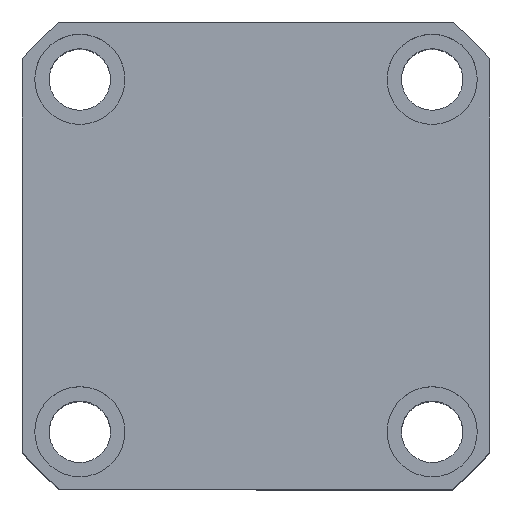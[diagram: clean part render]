
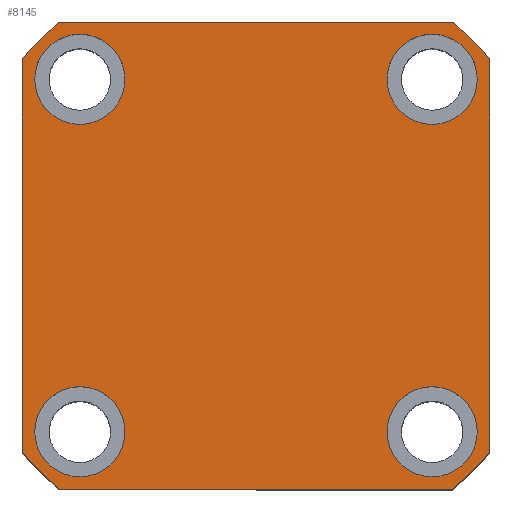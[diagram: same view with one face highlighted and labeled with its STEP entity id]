
A CAD part, top view. The second image highlights one B-rep face of the part: STEP entity #8145.
In plain terms, the highlighted planar face has unit normal (0, 0, 1) as drawn and (0, 0, -1) by its records, which use the part's own axes.
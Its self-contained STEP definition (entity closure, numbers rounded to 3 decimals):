
#137 = EDGE_CURVE ( 'NONE', #4290, #3508, #11604, .T. ) ;
#358 = ORIENTED_EDGE ( 'NONE', *, *, #2999, .F. ) ;
#804 = CARTESIAN_POINT ( 'NONE',  ( -43., 43., 0. ) ) ;
#957 = LINE ( 'NONE', #5807, #3370 ) ;
#1040 = VERTEX_POINT ( 'NONE', #4546 ) ;
#1127 = ORIENTED_EDGE ( 'NONE', *, *, #10592, .F. ) ;
#1174 = CARTESIAN_POINT ( 'NONE',  ( 32., -43., 0. ) ) ;
#1269 = VERTEX_POINT ( 'NONE', #4245 ) ;
#1313 = EDGE_CURVE ( 'NONE', #10819, #14537, #3320, .T. ) ;
#1433 = DIRECTION ( 'NONE',  ( -1., 0., 0. ) ) ;
#1468 = DIRECTION ( 'NONE',  ( 0., 0., 1. ) ) ;
#1489 = CIRCLE ( 'NONE', #12491, 74.5 ) ;
#1985 = DIRECTION ( 'NONE',  ( -1., 0., 0. ) ) ;
#1999 = FACE_BOUND ( 'NONE', #10458, .T. ) ;
#2124 = DIRECTION ( 'NONE',  ( 0., 0., -1. ) ) ;
#2259 = CARTESIAN_POINT ( 'NONE',  ( 32., 43., 0. ) ) ;
#2394 = ORIENTED_EDGE ( 'NONE', *, *, #137, .F. ) ;
#2412 = EDGE_CURVE ( 'NONE', #2952, #1040, #13383, .T. ) ;
#2517 = CARTESIAN_POINT ( 'NONE',  ( 57., 57., 0. ) ) ;
#2525 = CIRCLE ( 'NONE', #12317, 11. ) ;
#2550 = DIRECTION ( 'NONE',  ( 0., 0., -1. ) ) ;
#2587 = VERTEX_POINT ( 'NONE', #2259 ) ;
#2898 = DIRECTION ( 'NONE',  ( 0., 0., -1. ) ) ;
#2952 = VERTEX_POINT ( 'NONE', #11994 ) ;
#2999 = EDGE_CURVE ( 'NONE', #15033, #1269, #11214, .T. ) ;
#3010 = CARTESIAN_POINT ( 'NONE',  ( -47.971, 57., 0. ) ) ;
#3320 = CIRCLE ( 'NONE', #9680, 11. ) ;
#3335 = CARTESIAN_POINT ( 'NONE',  ( 54., -43., 0. ) ) ;
#3370 = VECTOR ( 'NONE', #8192, 1000. ) ;
#3508 = VERTEX_POINT ( 'NONE', #8766 ) ;
#3743 = CARTESIAN_POINT ( 'NONE',  ( 0., 0., 0. ) ) ;
#3827 = VERTEX_POINT ( 'NONE', #11361 ) ;
#3828 = CIRCLE ( 'NONE', #7115, 74.5 ) ;
#3911 = EDGE_CURVE ( 'NONE', #1269, #12173, #3921, .T. ) ;
#3921 = CIRCLE ( 'NONE', #6858, 74.5 ) ;
#4144 = CARTESIAN_POINT ( 'NONE',  ( -32., 43., 0. ) ) ;
#4187 = EDGE_LOOP ( 'NONE', ( #13635, #4657 ) ) ;
#4245 = CARTESIAN_POINT ( 'NONE',  ( -57., -47.971, 0. ) ) ;
#4283 = DIRECTION ( 'NONE',  ( 0., 0., 1. ) ) ;
#4290 = VERTEX_POINT ( 'NONE', #6580 ) ;
#4384 = CIRCLE ( 'NONE', #11736, 74.5 ) ;
#4512 = EDGE_CURVE ( 'NONE', #12173, #6293, #957, .T. ) ;
#4546 = CARTESIAN_POINT ( 'NONE',  ( -54., -43., 0. ) ) ;
#4548 = DIRECTION ( 'NONE',  ( 0., 0., -1. ) ) ;
#4657 = ORIENTED_EDGE ( 'NONE', *, *, #15214, .F. ) ;
#5028 = ORIENTED_EDGE ( 'NONE', *, *, #6767, .F. ) ;
#5146 = FACE_BOUND ( 'NONE', #4187, .T. ) ;
#5189 = ORIENTED_EDGE ( 'NONE', *, *, #11516, .F. ) ;
#5269 = CARTESIAN_POINT ( 'NONE',  ( 47.971, -57., 0. ) ) ;
#5358 = VECTOR ( 'NONE', #9121, 1000. ) ;
#5428 = DIRECTION ( 'NONE',  ( 0., 0., -1. ) ) ;
#5526 = FACE_BOUND ( 'NONE', #8259, .T. ) ;
#5717 = CARTESIAN_POINT ( 'NONE',  ( 0., 0., 0. ) ) ;
#5806 = CARTESIAN_POINT ( 'NONE',  ( 0., 0., 0. ) ) ;
#5807 = CARTESIAN_POINT ( 'NONE',  ( -57., -57., 0. ) ) ;
#5923 = ORIENTED_EDGE ( 'NONE', *, *, #4512, .F. ) ;
#6203 = CARTESIAN_POINT ( 'NONE',  ( -57., 57., 0. ) ) ;
#6290 = ORIENTED_EDGE ( 'NONE', *, *, #3911, .F. ) ;
#6293 = VERTEX_POINT ( 'NONE', #5269 ) ;
#6378 = EDGE_CURVE ( 'NONE', #3508, #3827, #1489, .T. ) ;
#6543 = AXIS2_PLACEMENT_3D ( 'NONE', #11590, #4548, #12751 ) ;
#6580 = CARTESIAN_POINT ( 'NONE',  ( 57., -47.971, 0. ) ) ;
#6678 = ORIENTED_EDGE ( 'NONE', *, *, #9147, .F. ) ;
#6753 = AXIS2_PLACEMENT_3D ( 'NONE', #804, #9060, #1985 ) ;
#6767 = EDGE_CURVE ( 'NONE', #2587, #14667, #14923, .T. ) ;
#6858 = AXIS2_PLACEMENT_3D ( 'NONE', #5717, #13903, #6913 ) ;
#6913 = DIRECTION ( 'NONE',  ( 1., 0., 0. ) ) ;
#6993 = DIRECTION ( 'NONE',  ( 1., 0., 0. ) ) ;
#7037 = ORIENTED_EDGE ( 'NONE', *, *, #14963, .F. ) ;
#7115 = AXIS2_PLACEMENT_3D ( 'NONE', #8560, #1468, #9702 ) ;
#7433 = ORIENTED_EDGE ( 'NONE', *, *, #2412, .F. ) ;
#7506 = AXIS2_PLACEMENT_3D ( 'NONE', #9194, #2124, #10392 ) ;
#7703 = VECTOR ( 'NONE', #1433, 1000. ) ;
#8072 = EDGE_CURVE ( 'NONE', #12330, #10299, #15254, .T. ) ;
#8145 = ADVANCED_FACE ( 'NONE', ( #1999, #5146, #8294, #5526, #14127 ), #9653, .F. ) ;
#8179 = ORIENTED_EDGE ( 'NONE', *, *, #10245, .F. ) ;
#8192 = DIRECTION ( 'NONE',  ( 1., 0., 0. ) ) ;
#8259 = EDGE_LOOP ( 'NONE', ( #14164, #5189 ) ) ;
#8294 = FACE_BOUND ( 'NONE', #14480, .T. ) ;
#8435 = CIRCLE ( 'NONE', #6753, 11. ) ;
#8525 = CARTESIAN_POINT ( 'NONE',  ( -57., 57., 0. ) ) ;
#8560 = CARTESIAN_POINT ( 'NONE',  ( 0., 0., 0. ) ) ;
#8698 = ORIENTED_EDGE ( 'NONE', *, *, #13133, .F. ) ;
#8766 = CARTESIAN_POINT ( 'NONE',  ( 57., 47.971, 0. ) ) ;
#9001 = VERTEX_POINT ( 'NONE', #3010 ) ;
#9060 = DIRECTION ( 'NONE',  ( 0., 0., -1. ) ) ;
#9121 = DIRECTION ( 'NONE',  ( 0., 1., 0. ) ) ;
#9147 = EDGE_CURVE ( 'NONE', #9001, #15033, #3828, .T. ) ;
#9194 = CARTESIAN_POINT ( 'NONE',  ( 43., 43., 0. ) ) ;
#9272 = AXIS2_PLACEMENT_3D ( 'NONE', #9607, #2550, #10790 ) ;
#9607 = CARTESIAN_POINT ( 'NONE',  ( -43., 43., 0. ) ) ;
#9653 = PLANE ( 'NONE',  #14768 ) ;
#9680 = AXIS2_PLACEMENT_3D ( 'NONE', #15067, #14974, #14876 ) ;
#9702 = DIRECTION ( 'NONE',  ( 1., 0., 0. ) ) ;
#9706 = DIRECTION ( 'NONE',  ( -1., 0., 0. ) ) ;
#9750 = CARTESIAN_POINT ( 'NONE',  ( -47.971, -57., 0. ) ) ;
#9822 = DIRECTION ( 'NONE',  ( 0., 0., -1. ) ) ;
#9872 = CARTESIAN_POINT ( 'NONE',  ( -43., -43., 0. ) ) ;
#9964 = CARTESIAN_POINT ( 'NONE',  ( 43., 43., 0. ) ) ;
#10245 = EDGE_CURVE ( 'NONE', #14667, #2587, #2525, .T. ) ;
#10299 = VERTEX_POINT ( 'NONE', #4144 ) ;
#10392 = DIRECTION ( 'NONE',  ( -1., 0., 0. ) ) ;
#10458 = EDGE_LOOP ( 'NONE', ( #1127, #7433 ) ) ;
#10592 = EDGE_CURVE ( 'NONE', #1040, #2952, #12457, .T. ) ;
#10790 = DIRECTION ( 'NONE',  ( -1., 0., 0. ) ) ;
#10819 = VERTEX_POINT ( 'NONE', #1174 ) ;
#10978 = CIRCLE ( 'NONE', #11849, 11. ) ;
#11149 = DIRECTION ( 'NONE',  ( -1., 0., 0. ) ) ;
#11214 = LINE ( 'NONE', #6203, #13941 ) ;
#11327 = CARTESIAN_POINT ( 'NONE',  ( 0., 0., 0. ) ) ;
#11361 = CARTESIAN_POINT ( 'NONE',  ( 47.971, 57., 0. ) ) ;
#11443 = ORIENTED_EDGE ( 'NONE', *, *, #6378, .F. ) ;
#11516 = EDGE_CURVE ( 'NONE', #10299, #12330, #8435, .T. ) ;
#11590 = CARTESIAN_POINT ( 'NONE',  ( -43., -43., 0. ) ) ;
#11604 = LINE ( 'NONE', #2517, #5358 ) ;
#11645 = AXIS2_PLACEMENT_3D ( 'NONE', #9872, #9822, #9706 ) ;
#11736 = AXIS2_PLACEMENT_3D ( 'NONE', #5806, #13996, #6993 ) ;
#11849 = AXIS2_PLACEMENT_3D ( 'NONE', #12430, #5428, #13607 ) ;
#11994 = CARTESIAN_POINT ( 'NONE',  ( -32., -43., 0. ) ) ;
#12010 = DIRECTION ( 'NONE',  ( 1., 0., 0. ) ) ;
#12173 = VERTEX_POINT ( 'NONE', #9750 ) ;
#12317 = AXIS2_PLACEMENT_3D ( 'NONE', #9964, #2898, #11149 ) ;
#12330 = VERTEX_POINT ( 'NONE', #13319 ) ;
#12430 = CARTESIAN_POINT ( 'NONE',  ( 43., -43., 0. ) ) ;
#12457 = CIRCLE ( 'NONE', #6543, 11. ) ;
#12485 = DIRECTION ( 'NONE',  ( 1., 0., 0. ) ) ;
#12491 = AXIS2_PLACEMENT_3D ( 'NONE', #11327, #4283, #12485 ) ;
#12751 = DIRECTION ( 'NONE',  ( -1., 0., 0. ) ) ;
#12801 = CARTESIAN_POINT ( 'NONE',  ( 54., 43., 0. ) ) ;
#13001 = EDGE_LOOP ( 'NONE', ( #11443, #2394, #8698, #5923, #6290, #358, #6678, #7037 ) ) ;
#13125 = DIRECTION ( 'NONE',  ( 0., 0., 1. ) ) ;
#13133 = EDGE_CURVE ( 'NONE', #6293, #4290, #4384, .T. ) ;
#13305 = DIRECTION ( 'NONE',  ( 0., -1., 0. ) ) ;
#13319 = CARTESIAN_POINT ( 'NONE',  ( -54., 43., 0. ) ) ;
#13383 = CIRCLE ( 'NONE', #11645, 11. ) ;
#13521 = LINE ( 'NONE', #8525, #7703 ) ;
#13607 = DIRECTION ( 'NONE',  ( -1., 0., 0. ) ) ;
#13635 = ORIENTED_EDGE ( 'NONE', *, *, #1313, .F. ) ;
#13903 = DIRECTION ( 'NONE',  ( 0., 0., 1. ) ) ;
#13941 = VECTOR ( 'NONE', #13305, 1000. ) ;
#13996 = DIRECTION ( 'NONE',  ( 0., 0., 1. ) ) ;
#14127 = FACE_OUTER_BOUND ( 'NONE', #13001, .T. ) ;
#14164 = ORIENTED_EDGE ( 'NONE', *, *, #8072, .F. ) ;
#14436 = CARTESIAN_POINT ( 'NONE',  ( -57., 47.971, 0. ) ) ;
#14480 = EDGE_LOOP ( 'NONE', ( #5028, #8179 ) ) ;
#14537 = VERTEX_POINT ( 'NONE', #3335 ) ;
#14667 = VERTEX_POINT ( 'NONE', #12801 ) ;
#14768 = AXIS2_PLACEMENT_3D ( 'NONE', #3743, #13125, #12010 ) ;
#14876 = DIRECTION ( 'NONE',  ( -1., 0., 0. ) ) ;
#14923 = CIRCLE ( 'NONE', #7506, 11. ) ;
#14963 = EDGE_CURVE ( 'NONE', #3827, #9001, #13521, .T. ) ;
#14974 = DIRECTION ( 'NONE',  ( 0., 0., -1. ) ) ;
#15033 = VERTEX_POINT ( 'NONE', #14436 ) ;
#15067 = CARTESIAN_POINT ( 'NONE',  ( 43., -43., 0. ) ) ;
#15214 = EDGE_CURVE ( 'NONE', #14537, #10819, #10978, .T. ) ;
#15254 = CIRCLE ( 'NONE', #9272, 11. ) ;
